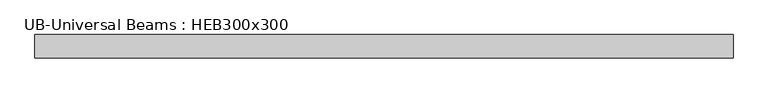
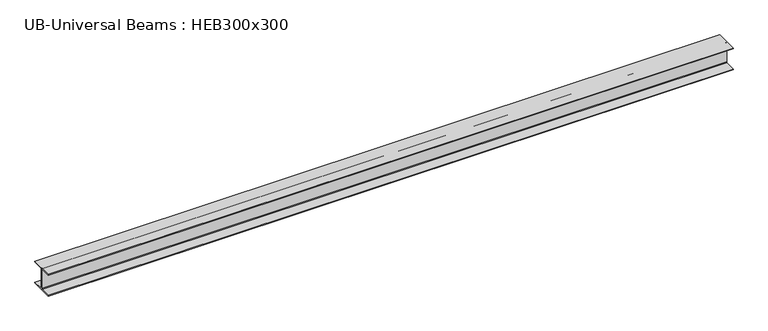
"""IFC4 building model written with IfcOpenShell, lengths in millimetres: beam geometry, UB-Universal Beams : HEB300x300."""

from ifc_helpers import new_model, si_unit, point, frame, frame_2d, origin, place, context, project, spatial, polyline, circle_curve, trimmed, segment, composite_curve, outline, extrude, source, transform, mapped, element, save


def ub_universal_beams_heb300x300_a0430d8c(model_context):
    return source(origin(), model_context, "Body", "SweptSolid", [
        extrude(outline(composite_curve([segment(polyline([(150.0, -139.8), (150.0, -150.0), (-150.0, -150.0), (-150.0, -139.8), (-11.9, -139.8)]), True, "CONTINUOUS"), segment(trimmed(circle_curve(frame_2d((-11.9, -130.9)), 8.9), [point((-11.9, -139.8))], [point((-3.0, -130.9))], True, "CARTESIAN"), True, "CONTINUOUS"), segment(polyline([(-3.0, -130.9), (-3.0, 130.9)]), True, "CONTINUOUS"), segment(trimmed(circle_curve(frame_2d((-11.9, 130.9)), 8.9), [point((-3.0, 130.9))], [point((-11.9, 139.8))], True, "CARTESIAN"), True, "CONTINUOUS"), segment(polyline([(-11.9, 139.8), (-150.0, 139.8), (-150.0, 150.0), (150.0, 150.0), (150.0, 139.8), (11.9, 139.8)]), True, "CONTINUOUS"), segment(trimmed(circle_curve(frame_2d((11.9, 130.9)), 8.9), [point((11.9, 139.8))], [point((3.0, 130.9))], True, "CARTESIAN"), True, "CONTINUOUS"), segment(polyline([(3.0, 130.9), (3.0, -130.9)]), True, "CONTINUOUS"), segment(trimmed(circle_curve(frame_2d((11.9, -130.9)), 8.9), [point((3.0, -130.9))], [point((11.9, -139.8))], True, "CARTESIAN"), True, "CONTINUOUS"), segment(polyline([(11.9, -139.8), (150.0, -139.8)]), True, "CONTINUOUS")], self_intersect=False)), frame((-4698.7, 0.0, 0.0), z_axis=(1.0, 0.0, 0.0), x_axis=(0.0, 1.0, 0.0)), (0.0, 0.0, 1.0), 8959.7),
    ])


if __name__ == "__main__":
    model = new_model("IFC4")
    model_context = context("Model", 3, world=origin())
    ifc_project = project(units=[si_unit("LENGTHUNIT", "METRE", prefix="MILLI")], contexts=[model_context])
    site = spatial("IfcSite", under=ifc_project)
    building = spatial("IfcBuilding", under=site)
    placement = place(None, origin())
    ub_universal_beams_heb300x300_shape = ub_universal_beams_heb300x300_a0430d8c(model_context)
    element("IfcBeam", 1, ObjectType="UB-Universal Beams : HEB300x300", at=placement, inside=building, context=model_context, shape_type="MappedRepresentation", body=[
        mapped(ub_universal_beams_heb300x300_shape, transform((0.0, 0.0, 0.0), x_axis=(1.0, 0.0, 0.0), y_axis=(0.0, 1.0, 0.0), z_axis=(0.0, 0.0, 1.0))),
    ])
    save(model, "model.ifc")
